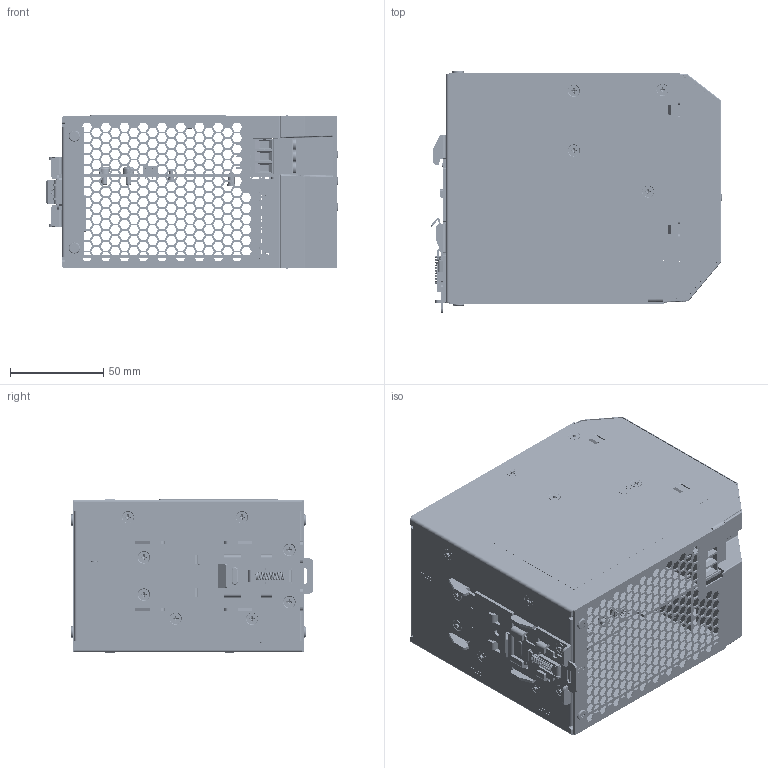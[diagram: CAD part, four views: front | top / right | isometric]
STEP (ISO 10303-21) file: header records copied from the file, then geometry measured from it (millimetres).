
FILE_DESCRIPTION((''),'2;1');
FILE_NAME('DRV-24V480W1PNH-PD01_ASM','2018-04-26T',('Pattrapol.seng'),(''),'PRO/ENGINEER BY PARAMETRIC TECHNOLOGY CORPORATION, 2010180','PRO/ENGINEER BY PARAMETRIC TECHNOLOGY CORPORATION, 2010180','');
FILE_SCHEMA(('CONFIG_CONTROL_DESIGN','SHAPE_APPEARANCE_LAYERS_GROUPS'));
Products named in the file (64): CHASSIS; HS-T1-CHASSIS; RIVET; 330DTA0053S1_ASM; 346654410203; 3100000600-1; 346008810000; 3462094300; MAINBOARD; 3461420800; DCT2061; BMB420-508MA02; BMB420U103; BMB420P201; ASSEM1_ASM; 307301387W_ASM; 3071381200; 307753266G; ASSY_DCT2061_ASM; VR750; LED750; LED751; ASSY_MAINBOARD_ASM; DCT2057; DCT2056; MH150-635M804A302_A2; MH150-635M804A302_A3; MH150-635M804A302_A4_AF0; 307662657W_ASM; ASSY_DCT2056_ASM; 3105263700; 3461429100; 3461550200_; 3071644428; 34704290XX; 347042900X; ASSY_DCT2057_ASM; 31003007XX; ASSY_ALL-BOARD_ASM; 31000007XX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
Assembly tree (97 placements, depth 7):
  DRV-24V480W1PNH-PD01_ASM
    330DTA0053S1_ASM
      CHASSIS
      HS-T1-CHASSIS
      RIVET  x2
    346654410203
    3100000600-1  x4
    346008810000
    3462094300
    ASSY_ALL-BOARD_ASM
      ASSY_MAINBOARD_ASM
        MAINBOARD
        3461420800  x3
        ASSY_DCT2061_ASM
          DCT2061
          307301387W_ASM
            ASSEM1_ASM  x3
              BMB420-508MA02
              BMB420U103
              BMB420P201
          3071381200
          307753266G
        VR750
        LED750
        LED751
      ASSY_DCT2057_ASM
        DCT2057
        ASSY_DCT2056_ASM
          DCT2056
          307662657W_ASM
            MH150-635M804A302_A2
            MH150-635M804A302_A3  x2
            MH150-635M804A302_A4_AF0
        3105263700
        3461429100
        3461550200_
        3071644428
        34704290XX
        347042900X
      31003007XX  x2
    31000007XX  x10
    31000009XX
    31052971XX_6-32  x4
    ASSY_COVER_ASM
      330DTA0052_ASM
        330DTA0052
        STUD-COVER  x4
    31050391XX  x4
    ASSY_PWB-DISPLAY_ASM
      PWB_LED_2
      LED_40X20MM
      307336817W_ASM
        307336817W
      307605336G
      3071203334-3P
      MCE-7A  x2
      VR750_VERTICAL
    330237120203_ASM
      330237120203
      330237120203_A1
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Bounding box: 156 x 130 x 82.6 mm (x, y, z)
Volume: 205284.6 mm3; surface area: 312889.4 mm2
Topology: 104 solids, 104 shells, 12849 faces, 34434 edges, 22212 vertices
Faces by surface type: plane 9344, cylinder 1693, extrusion 1011, cone 431, bspline 244, torus 110, sphere 16
Entity records: 509403 total; most frequent: CARTESIAN_POINT 79578, ORIENTED_EDGE 56330, DIRECTION 49375, PRESENTATION_STYLE_ASSIGNMENT 35641, STYLED_ITEM 29096, EDGE_CURVE 28165, CURVE_STYLE 28014, VECTOR 23735
